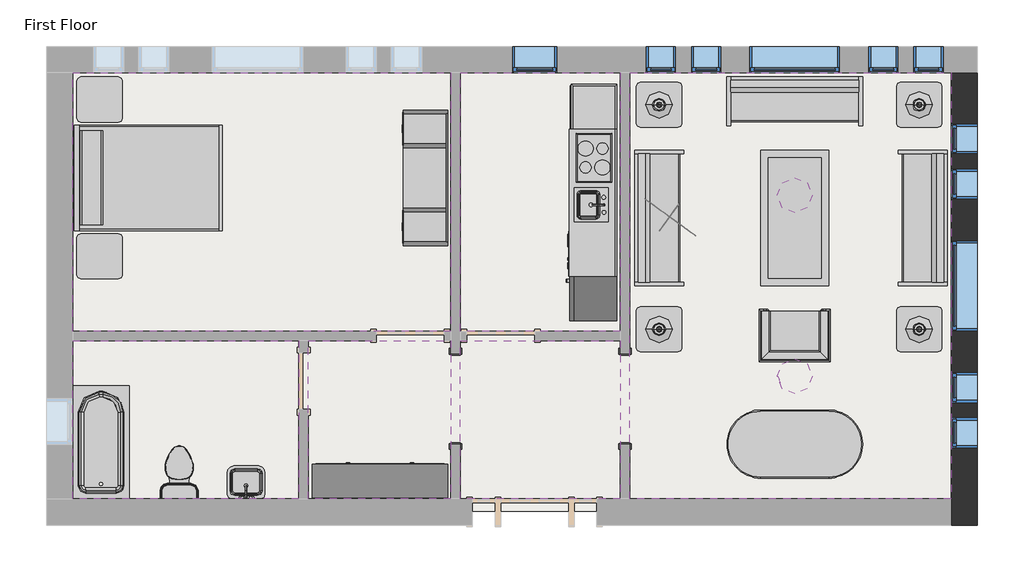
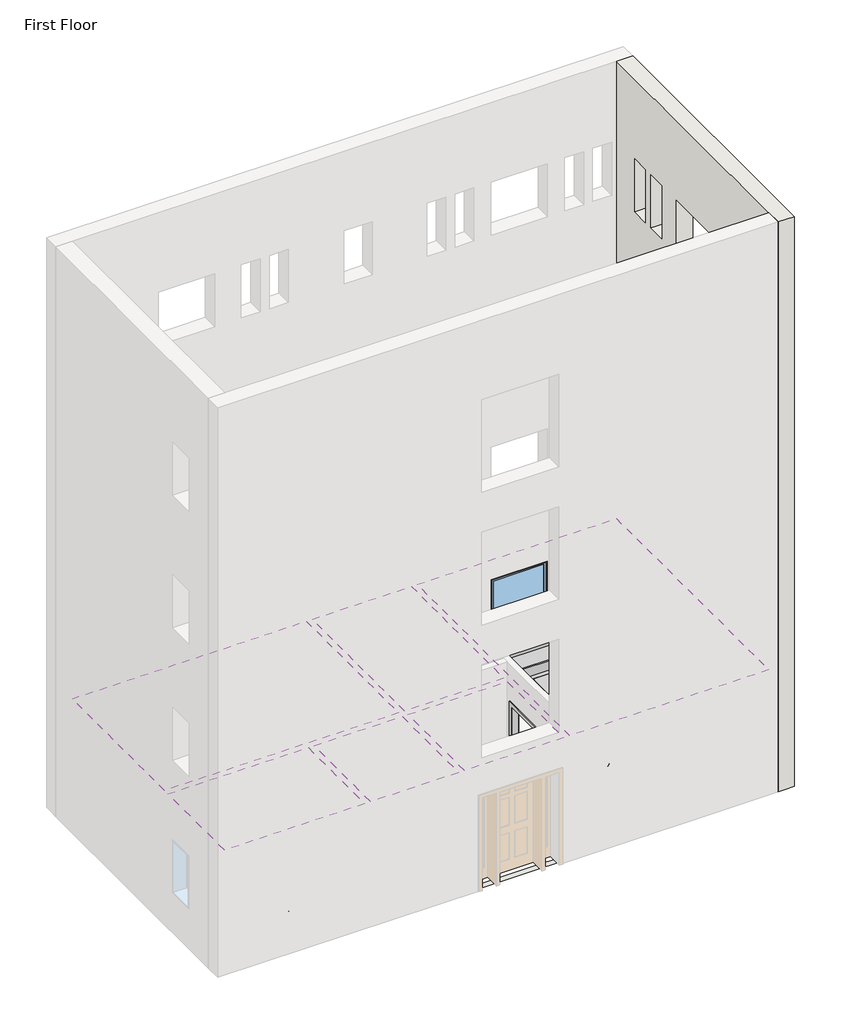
# One storey, part 2 of 2: 15 furniture elements, 11 windows, 6 coverings, 6 light fixtures, 4 proxies, 3 flow terminals, 1 slab, 1 wall.
"""IFC4 building model written with IfcOpenShell, lengths in millimetres."""

from ifc_helpers import new_model, si_unit, frame, origin, place, context, project, spatial, polyline, outline, extrude, faceted_brep, transform, mapped, element, save
from components import proxy_64a468c4, proxy_f44482cc, rpc_female_69e001fa, flow_terminal_0aeb31e3, toilet_domestic_3d_toilet_domestic_3d_f7549cf7, toilet_domestic_3d_toilet_domestic_3d_183bbd19, tub_rectangular_3d_tub_rectangular_3d_5e45a89b, furniture_096e7f55, chair_corbu_chair_corbu_2764bdef, furniture_7c473f12, furniture_ddc78764, furniture_4ef38d96, furniture_cd93a443, furniture_2c34a4f9, furniture_3a588284, furniture_1befe2a2, pendant_light_disk_100w_120v_c68bffb6, table_lamp_standard_60w_120v_6e8cd8b1, window_da97879f, window_d61ef850, window_60baf983, window_6eb97611

model = new_model("IFC4")

# Units and contexts
model_context = context("Model", 3, world=origin())
ifc_project = project(units=[si_unit("LENGTHUNIT", "METRE", prefix="MILLI")], contexts=[model_context])

# Site, building, storey
site = spatial("IfcSite", under=ifc_project)
building = spatial("IfcBuilding", under=site)
storey = spatial("IfcBuildingStorey", under=building, Name="First Floor", Elevation=0.0)

# Proxies
placement = place(None, origin())
proxy_shape = proxy_64a468c4(model_context)
element("IfcBuildingElementProxy", 1, Name="Kitchenette - Medium : 8'6\"", ObjectType="Kitchenette - Medium : 8'6\"", at=placement, inside=storey, context=model_context, shape_type="MappedRepresentation", body=[
    mapped(proxy_shape, transform((-3887.7589563, 8837.7956433, 0.0), x_axis=(0.0, -1.0, 0.0), y_axis=(1.0, 0.0, 0.0), z_axis=(0.0, 0.0, 1.0))),
])
proxy_2_shape = proxy_f44482cc(model_context)
element("IfcBuildingElementProxy", 2, Name="Opening-Cased : 48\" x 84\"", ObjectType="Opening-Cased : 48\" x 84\"", at=placement, inside=storey, context=model_context, shape_type="MappedRepresentation", body=[
    mapped(proxy_2_shape, transform((-3773.4589563, 5882.4203434, 0.0), x_axis=(0.0, 1.0, 0.0), y_axis=(-1.0, 0.0, 0.0), z_axis=(0.0, 0.0, 1.0))),
])
element("IfcBuildingElementProxy", 3, Name="Opening-Cased : 48\" x 84\"", ObjectType="Opening-Cased : 48\" x 84\"", at=placement, inside=storey, context=model_context, shape_type="MappedRepresentation", body=[
    mapped(proxy_2_shape, transform((-6059.4589563, 5866.04303, 0.0), x_axis=(0.0, -1.0, 0.0), y_axis=(1.0, 0.0, 0.0), z_axis=(0.0, 0.0, 1.0))),
])
rpc_female_shape = rpc_female_69e001fa(model_context)
element("IfcBuildingElementProxy", 4, Name="RPC Female : Cynthia", ObjectType="RPC Female : Cynthia", at=placement, inside=storey, context=model_context, shape_type="MappedRepresentation", body=[
    mapped(rpc_female_shape, transform((-3048.0, 8229.6, 0.0), x_axis=(0.5877852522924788, 0.8090169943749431, 0.0), y_axis=(-0.8090169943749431, 0.5877852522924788, 0.0), z_axis=(0.0, 0.0, 1.0))),
])

# Coverings
element("IfcCovering", 5, ObjectType="GWB on Mtl. Stud", at=placement, inside=storey, context=model_context, shape_type="SweptSolid", body=[
    extrude(outline(polyline([(-11217.2464563, 10270.0191867), (-6122.9589563, 10270.0191867), (-6122.9589563, 6787.0441867), (-11217.2464563, 6787.0441867), (-11217.2464563, 10270.0191867)])), frame((0.0, 0.0, 2590.8), z_axis=(0.0, 0.0, 1.0), x_axis=(1.0, 0.0, 0.0)), (0.0, 0.0, 1.0), 107.95),
])
element("IfcCovering", 6, ObjectType="GWB on Mtl. Stud", at=placement, inside=storey, context=model_context, shape_type="SweptSolid", body=[
    extrude(outline(polyline([(-5995.9589563, 6787.0441867), (-5995.9589563, 10270.0191867), (-3836.9589563, 10270.0191867), (-3836.9589563, 6787.0441867), (-5995.9589563, 6787.0441867)])), frame((0.0, 0.0, 2590.8), z_axis=(0.0, 0.0, 1.0), x_axis=(1.0, 0.0, 0.0)), (0.0, 0.0, 1.0), 107.95),
])
element("IfcCovering", 7, ObjectType="GWB on Mtl. Stud", at=placement, inside=storey, context=model_context, shape_type="SweptSolid", body=[
    extrude(outline(polyline([(-3709.9589563, 4526.4441867), (-3709.9589563, 10270.0191867), (622.3285437, 10270.0191867), (622.3285437, 4526.4441867), (-3709.9589563, 4526.4441867)])), frame((0.0, 0.0, 2590.8), z_axis=(0.0, 0.0, 1.0), x_axis=(1.0, 0.0, 0.0)), (0.0, 0.0, 1.0), 107.95),
])
element("IfcCovering", 8, ObjectType="GWB on Mtl. Stud", at=placement, inside=storey, context=model_context, shape_type="SweptSolid", body=[
    extrude(outline(polyline([(-3836.9589563, 4526.4441867), (-5995.9589563, 4526.4441867), (-5995.9589563, 6660.0441867), (-3836.9589563, 6660.0441867), (-3836.9589563, 4526.4441867)])), frame((0.0, 0.0, 2590.8), z_axis=(0.0, 0.0, 1.0), x_axis=(1.0, 0.0, 0.0)), (0.0, 0.0, 1.0), 107.95),
])
element("IfcCovering", 9, ObjectType="GWB on Mtl. Stud", at=placement, inside=storey, context=model_context, shape_type="SweptSolid", body=[
    extrude(outline(polyline([(-6122.9589563, 4526.4441867), (-8042.2464563, 4526.4441867), (-8042.2464563, 6660.0441867), (-6122.9589563, 6660.0441867), (-6122.9589563, 4526.4441867)])), frame((0.0, 0.0, 2590.8), z_axis=(0.0, 0.0, 1.0), x_axis=(1.0, 0.0, 0.0)), (0.0, 0.0, 1.0), 107.95),
])
element("IfcCovering", 10, ObjectType="GWB on Mtl. Stud", at=placement, inside=storey, context=model_context, shape_type="SweptSolid", body=[
    extrude(outline(polyline([(-8169.2464563, 6660.0441867), (-8169.2464563, 4526.4441867), (-11217.2464563, 4526.4441867), (-11217.2464563, 6660.0441867), (-8169.2464563, 6660.0441867)])), frame((0.0, 0.0, 2590.8), z_axis=(0.0, 0.0, 1.0), x_axis=(1.0, 0.0, 0.0)), (0.0, 0.0, 1.0), 107.95),
])

# Flow terminals
flow_terminal_shape = flow_terminal_0aeb31e3(model_context)
element("IfcFlowTerminal", 11, ObjectType="Sink Vanity-Square : 24\" x 19\"", at=placement, inside=storey, context=model_context, shape_type="MappedRepresentation", body=[
    mapped(flow_terminal_shape, transform((-8864.7572157, 4706.5895878, 0.0), x_axis=(-1.0, 0.0, 0.0), y_axis=(0.0, -1.0, 0.0), z_axis=(0.0, 0.0, 1.0))),
])
toilet_domestic_3d_toilet_domestic_3d_shape = toilet_domestic_3d_toilet_domestic_3d_f7549cf7(model_context)
toilet_domestic_3d_toilet_domestic_3d_2_shape = toilet_domestic_3d_toilet_domestic_3d_183bbd19(model_context)
element("IfcFlowTerminal", 12, ObjectType="Toilet-Domestic-3D : Toilet-Domestic-3D", at=placement, inside=storey, context=model_context, shape_type="MappedRepresentation", body=[
    mapped(toilet_domestic_3d_toilet_domestic_3d_shape, transform((-9782.1466587, 4940.866411, 0.0), x_axis=(-1.0000000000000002, 0.0, 0.0), y_axis=(0.0, -1.0000000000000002, 0.0), z_axis=(0.0, 0.0, 1.0))),
    mapped(toilet_domestic_3d_toilet_domestic_3d_2_shape, transform((-9782.1466587, 4940.866411, 0.0), x_axis=(-1.0000000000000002, 0.0, 0.0), y_axis=(0.0, -1.0000000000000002, 0.0), z_axis=(0.0, 0.0, 1.0))),
])
tub_rectangular_3d_tub_rectangular_3d_shape = tub_rectangular_3d_tub_rectangular_3d_5e45a89b(model_context)
element("IfcFlowTerminal", 13, ObjectType="Tub-Rectangular-3D : Tub-Rectangular-3D", at=placement, inside=storey, context=model_context, shape_type="MappedRepresentation", body=[
    mapped(tub_rectangular_3d_tub_rectangular_3d_shape, transform((-11393.4589563, 5637.0471554, 0.0), x_axis=(0.0, 1.0, 0.0), y_axis=(-1.0, 0.0, 0.0), z_axis=(0.0, 0.0, 1.0))),
])

# Furniture
furniture_shape = furniture_096e7f55(model_context)
element("IfcFurniture", 14, ObjectType="Bed-Shaker : Double 56\" x 78\"", at=placement, inside=storey, context=model_context, shape_type="MappedRepresentation", body=[
    mapped(furniture_shape, transform((-11183.1982802, 8871.8755561, 0.0), x_axis=(0.0, 1.0, 0.0), y_axis=(-1.0, 0.0, 0.0), z_axis=(0.0, 0.0, 1.0))),
])
chair_corbu_chair_corbu_shape = chair_corbu_chair_corbu_2764bdef(model_context)
element("IfcFurniture", 15, ObjectType="Chair-Corbu : Chair-Corbu", at=placement, inside=storey, context=model_context, shape_type="MappedRepresentation", body=[
    mapped(chair_corbu_chair_corbu_shape, transform((-914.0851858, 7193.4962359, 0.0), x_axis=(-1.0, 0.0, 0.0), y_axis=(0.0, -1.0, 0.0), z_axis=(0.0, 0.0, 1.0))),
])
furniture_2_shape = furniture_7c473f12(model_context)
element("IfcFurniture", 16, ObjectType="Dresser : 72\" x 60\" x 18\"", at=placement, inside=storey, context=model_context, shape_type="MappedRepresentation", body=[
    mapped(furniture_2_shape, transform((-7344.6522161, 4404.5812326, 0.0), x_axis=(-1.0, 0.0, 0.0), y_axis=(0.0, -1.0, 0.0), z_axis=(0.0, 0.0, 1.0))),
])
furniture_3_shape = furniture_ddc78764(model_context)
element("IfcFurniture", 17, ObjectType="Entertainment Center : 72\" x 72\" x 24\"", at=placement, inside=storey, context=model_context, shape_type="MappedRepresentation", body=[
    mapped(furniture_3_shape, transform((-6059.4589563, 8852.8255561, 0.0), x_axis=(0.0, -1.0, 0.0), y_axis=(1.0, 0.0, 0.0), z_axis=(0.0, 0.0, 1.0))),
])
furniture_4_shape = furniture_4ef38d96(model_context)
element("IfcFurniture", 18, ObjectType="Sofa : 72\"", at=placement, inside=storey, context=model_context, shape_type="MappedRepresentation", body=[
    mapped(furniture_4_shape, transform((-1557.8294481, 9741.2775883, 0.0), x_axis=(1.0, 0.0, 0.0), y_axis=(0.0, 1.0, 0.0), z_axis=(0.0, 0.0, 1.0))),
])
element("IfcFurniture", 19, ObjectType="Sofa : 72\"", at=placement, inside=storey, context=model_context, shape_type="MappedRepresentation", body=[
    mapped(furniture_4_shape, transform((93.5869453, 8383.0021785, 0.0), x_axis=(0.0, -1.0, 0.0), y_axis=(1.0, 0.0, 0.0), z_axis=(0.0, 0.0, 1.0))),
])
element("IfcFurniture", 20, ObjectType="Sofa : 72\"", at=placement, inside=storey, context=model_context, shape_type="MappedRepresentation", body=[
    mapped(furniture_4_shape, transform((-3170.104858, 8242.2611949, 0.0), x_axis=(0.0, 1.0, 0.0), y_axis=(-1.0, 0.0, 0.0), z_axis=(0.0, 0.0, 1.0))),
])
furniture_5_shape = furniture_cd93a443(model_context)
element("IfcFurniture", 21, ObjectType="Table-Coffee : 36\" x 72\" x 18\"", at=placement, inside=storey, context=model_context, shape_type="MappedRepresentation", body=[
    mapped(furniture_5_shape, transform((-1582.6700341, 8330.8974534, 0.0), x_axis=(0.0, -1.0, 0.0), y_axis=(1.0, 0.0, 0.0), z_axis=(0.0, 0.0, 1.0))),
])
furniture_6_shape = furniture_2c34a4f9(model_context)
element("IfcFurniture", 22, ObjectType="Table-Dining Oval : 36\" x 72\"", at=placement, inside=storey, context=model_context, shape_type="MappedRepresentation", body=[
    mapped(furniture_6_shape, transform((-1085.6392842, 5622.7300473, 0.0), x_axis=(1.0, 0.0, 0.0), y_axis=(0.0, 1.0, 0.0), z_axis=(0.0, 0.0, 1.0))),
])
furniture_7_shape = furniture_3a588284(model_context)
element("IfcFurniture", 23, ObjectType="Table-End : 24\" x 24\"", at=placement, inside=storey, context=model_context, shape_type="MappedRepresentation", body=[
    mapped(furniture_7_shape, transform((-119.5925866, 9684.2316867, 0.0), x_axis=(1.0, 0.0, 0.0), y_axis=(0.0, 1.0, 0.0), z_axis=(0.0, 0.0, 1.0))),
])
element("IfcFurniture", 24, ObjectType="Table-End : 24\" x 24\"", at=placement, inside=storey, context=model_context, shape_type="MappedRepresentation", body=[
    mapped(furniture_7_shape, transform((-3624.7925866, 9684.2316867, 0.0), x_axis=(1.0, 0.0, 0.0), y_axis=(0.0, 1.0, 0.0), z_axis=(0.0, 0.0, 1.0))),
])
element("IfcFurniture", 25, ObjectType="Table-End : 24\" x 24\"", at=placement, inside=storey, context=model_context, shape_type="MappedRepresentation", body=[
    mapped(furniture_7_shape, transform((-3624.7925866, 6660.0441867, 0.0), x_axis=(1.0, 0.0, 0.0), y_axis=(0.0, 1.0, 0.0), z_axis=(0.0, 0.0, 1.0))),
])
element("IfcFurniture", 26, ObjectType="Table-End : 24\" x 24\"", at=placement, inside=storey, context=model_context, shape_type="MappedRepresentation", body=[
    mapped(furniture_7_shape, transform((-119.5925866, 6660.0441867, 0.0), x_axis=(1.0, 0.0, 0.0), y_axis=(0.0, 1.0, 0.0), z_axis=(0.0, 0.0, 1.0))),
])
element("IfcFurniture", 27, ObjectType="Table-End : 24\" x 24\"", at=placement, inside=storey, context=model_context, shape_type="MappedRepresentation", body=[
    mapped(furniture_7_shape, transform((-11164.2346356, 9756.0737357, 0.0), x_axis=(1.0, 0.0, 0.0), y_axis=(0.0, 1.0, 0.0), z_axis=(0.0, 0.0, 1.0))),
])
furniture_8_shape = furniture_1befe2a2(model_context)
element("IfcFurniture", 28, ObjectType="Table-End : 24\" x 24\"", at=placement, inside=storey, context=model_context, shape_type="MappedRepresentation", body=[
    mapped(furniture_8_shape, transform((-11164.2346356, 7949.5773764, 0.0), x_axis=(1.0, 0.0, 0.0), y_axis=(0.0, 1.0, 0.0), z_axis=(0.0, 0.0, 1.0))),
])

# Light fixtures
pendant_light_disk_100w_120v_shape = pendant_light_disk_100w_120v_c68bffb6(model_context)
element("IfcLightFixture", 29, ObjectType="Pendant Light - Disk : 100W - 120V", at=placement, inside=storey, context=model_context, shape_type="MappedRepresentation", body=[
    mapped(pendant_light_disk_100w_120v_shape, transform((-1487.4589563, 8617.4316867, 152.3999938), x_axis=(1.0, 0.0, 0.0), y_axis=(0.0, 1.0, 0.0), z_axis=(0.0, 0.0, 1.0))),
])
element("IfcLightFixture", 30, ObjectType="Pendant Light - Disk : 100W - 120V", at=placement, inside=storey, context=model_context, shape_type="MappedRepresentation", body=[
    mapped(pendant_light_disk_100w_120v_shape, transform((-1487.4589563, 6179.0316867, 152.3999938), x_axis=(1.0, 0.0, 0.0), y_axis=(0.0, 1.0, 0.0), z_axis=(0.0, 0.0, 1.0))),
])
table_lamp_standard_60w_120v_shape = table_lamp_standard_60w_120v_6e8cd8b1(model_context)
element("IfcLightFixture", 31, ObjectType="Table Lamp - Standard : 60W - 120V", at=placement, inside=storey, context=model_context, shape_type="MappedRepresentation", body=[
    mapped(table_lamp_standard_60w_120v_shape, transform((188.9410437, 6812.4441867, 381.0), x_axis=(1.0, 0.0, 0.0), y_axis=(0.0, 1.0, 0.0), z_axis=(0.0, 0.0, 1.0))),
])
element("IfcLightFixture", 32, ObjectType="Table Lamp - Standard : 60W - 120V", at=placement, inside=storey, context=model_context, shape_type="MappedRepresentation", body=[
    mapped(table_lamp_standard_60w_120v_shape, transform((188.9410437, 9836.6316867, 381.0), x_axis=(1.0, 0.0, 0.0), y_axis=(0.0, 1.0, 0.0), z_axis=(0.0, 0.0, 1.0))),
])
element("IfcLightFixture", 33, ObjectType="Table Lamp - Standard : 60W - 120V", at=placement, inside=storey, context=model_context, shape_type="MappedRepresentation", body=[
    mapped(table_lamp_standard_60w_120v_shape, transform((-3316.2589563, 9836.6316867, 381.0), x_axis=(1.0, 0.0, 0.0), y_axis=(0.0, 1.0, 0.0), z_axis=(0.0, 0.0, 1.0))),
])
element("IfcLightFixture", 34, ObjectType="Table Lamp - Standard : 60W - 120V", at=placement, inside=storey, context=model_context, shape_type="MappedRepresentation", body=[
    mapped(table_lamp_standard_60w_120v_shape, transform((-3316.2589563, 6812.4441867, 381.0), x_axis=(1.0, 0.0, 0.0), y_axis=(0.0, 1.0, 0.0), z_axis=(0.0, 0.0, 1.0))),
])

# Slab
element("IfcSlab", 35, ObjectType="LW Concrete on Metal Deck", at=placement, inside=storey, context=model_context, shape_type="SweptSolid", body=[
    extrude(outline(polyline([(787.4285437, 10435.1191867), (787.4285437, 4361.3441867), (-11382.3464563, 4361.3441867), (-11382.3464563, 10435.1191867), (787.4285437, 10435.1191867)])), frame((0.0, 0.0, -104.775), z_axis=(0.0, 0.0, 1.0), x_axis=(1.0, 0.0, 0.0)), (0.0, 0.0, 1.0), 104.775),
])

# Wall
element("IfcWall", 36, ObjectType="Exterior - Brick on Mtl. Stud", at=placement, inside=storey, context=model_context, shape_type="Brep", body=[
    faceted_brep([(622.3285437, 10270.0191867, 13106.4), (622.3285437, 4526.4441867, 13106.4), (622.3285437, 4174.0191867, 13106.4), (974.7535437, 4174.0191867, 13106.4), (974.7535437, 10270.0191867, 13106.4), (622.3285437, 10270.0191867, 0.0), (622.3285437, 4526.4441867, 0.0), (622.3285437, 4361.3441867, 0.0), (622.3285437, 4174.0191867, 0.0), (622.3285437, 5823.4316867, 8229.6), (622.3285437, 5823.4316867, 7010.4), (622.3285437, 6229.8316867, 7010.4), (622.3285437, 6229.8316867, 8229.6), (622.3285437, 5213.8316867, 8229.6), (622.3285437, 5213.8316867, 7010.4), (622.3285437, 5620.2316867, 7010.4), (622.3285437, 5620.2316867, 8229.6), (622.3285437, 8973.0316867, 8229.6), (622.3285437, 8566.6316867, 8229.6), (622.3285437, 8566.6316867, 7010.4), (622.3285437, 8973.0316867, 7010.4), (622.3285437, 9582.6316867, 8229.6), (622.3285437, 9176.2316867, 8229.6), (622.3285437, 9176.2316867, 7010.4), (622.3285437, 9582.6316867, 7010.4), (622.3285437, 8007.8316867, 8229.6), (622.3285437, 6788.6316867, 8229.6), (622.3285437, 6788.6316867, 7010.4), (622.3285437, 8007.8316867, 7010.4), (622.3285437, 5823.4316867, 5181.6), (622.3285437, 5823.4316867, 3962.4), (622.3285437, 6229.8316867, 3962.4), (622.3285437, 6229.8316867, 5181.6), (622.3285437, 5213.8316867, 5181.6), (622.3285437, 5213.8316867, 3962.4), (622.3285437, 5620.2316867, 3962.4), (622.3285437, 5620.2316867, 5181.6), (622.3285437, 8973.0316867, 5181.6), (622.3285437, 8566.6316867, 5181.6), (622.3285437, 8566.6316867, 3962.4), (622.3285437, 8973.0316867, 3962.4), (622.3285437, 9582.6316867, 5181.6), (622.3285437, 9176.2316867, 5181.6), (622.3285437, 9176.2316867, 3962.4), (622.3285437, 9582.6316867, 3962.4), (622.3285437, 8007.8316867, 5181.6), (622.3285437, 6788.6316867, 5181.6), (622.3285437, 6788.6316867, 3962.4), (622.3285437, 8007.8316867, 3962.4), (622.3285437, 5823.4316867, 11277.6), (622.3285437, 5823.4316867, 10058.4), (622.3285437, 6229.8316867, 10058.4), (622.3285437, 6229.8316867, 11277.6), (622.3285437, 5213.8316867, 11277.6), (622.3285437, 5213.8316867, 10058.4), (622.3285437, 5620.2316867, 10058.4), (622.3285437, 5620.2316867, 11277.6), (622.3285437, 8973.0316867, 11277.6), (622.3285437, 8566.6316867, 11277.6), (622.3285437, 8566.6316867, 10058.4), (622.3285437, 8973.0316867, 10058.4), (622.3285437, 9582.6316867, 11277.6), (622.3285437, 9176.2316867, 11277.6), (622.3285437, 9176.2316867, 10058.4), (622.3285437, 9582.6316867, 10058.4), (622.3285437, 8007.8316867, 11277.6), (622.3285437, 6788.6316867, 11277.6), (622.3285437, 6788.6316867, 10058.4), (622.3285437, 8007.8316867, 10058.4), (622.3285437, 5823.4316867, 2133.6), (622.3285437, 5823.4316867, 914.4), (622.3285437, 6229.8316867, 914.4), (622.3285437, 6229.8316867, 2133.6), (622.3285437, 5213.8316867, 2133.6), (622.3285437, 5213.8316867, 914.4), (622.3285437, 5620.2316867, 914.4), (622.3285437, 5620.2316867, 2133.6), (622.3285437, 8973.0316867, 2133.6), (622.3285437, 8566.6316867, 2133.6), (622.3285437, 8566.6316867, 914.4), (622.3285437, 8973.0316867, 914.4), (622.3285437, 9582.6316867, 2133.6), (622.3285437, 9176.2316867, 2133.6), (622.3285437, 9176.2316867, 914.4), (622.3285437, 9582.6316867, 914.4), (622.3285437, 8007.8316867, 2133.6), (622.3285437, 6788.6316867, 2133.6), (622.3285437, 6788.6316867, 914.4), (622.3285437, 8007.8316867, 914.4), (974.7535437, 10270.0191867, 0.0), (974.7535437, 4174.0191867, 0.0), (974.7535437, 4361.3441867, 0.0), (974.7535437, 5823.4316867, 8229.6), (974.7535437, 6229.8316867, 8229.6), (974.7535437, 6229.8316867, 7010.4), (974.7535437, 5823.4316867, 7010.4), (974.7535437, 5213.8316867, 8229.6), (974.7535437, 5620.2316867, 8229.6), (974.7535437, 5620.2316867, 7010.4), (974.7535437, 5213.8316867, 7010.4), (974.7535437, 8973.0316867, 8229.6), (974.7535437, 8973.0316867, 7010.4), (974.7535437, 8566.6316867, 7010.4), (974.7535437, 8566.6316867, 8229.6), (974.7535437, 9582.6316867, 8229.6), (974.7535437, 9582.6316867, 7010.4), (974.7535437, 9176.2316867, 7010.4), (974.7535437, 9176.2316867, 8229.6), (974.7535437, 8007.8316867, 8229.6), (974.7535437, 8007.8316867, 7010.4), (974.7535437, 6788.6316867, 7010.4), (974.7535437, 6788.6316867, 8229.6), (974.7535437, 5823.4316867, 5181.6), (974.7535437, 6229.8316867, 5181.6), (974.7535437, 6229.8316867, 3962.4), (974.7535437, 5823.4316867, 3962.4), (974.7535437, 5213.8316867, 5181.6), (974.7535437, 5620.2316867, 5181.6), (974.7535437, 5620.2316867, 3962.4), (974.7535437, 5213.8316867, 3962.4), (974.7535437, 8973.0316867, 5181.6), (974.7535437, 8973.0316867, 3962.4), (974.7535437, 8566.6316867, 3962.4), (974.7535437, 8566.6316867, 5181.6), (974.7535437, 9582.6316867, 5181.6), (974.7535437, 9582.6316867, 3962.4), (974.7535437, 9176.2316867, 3962.4), (974.7535437, 9176.2316867, 5181.6), (974.7535437, 8007.8316867, 5181.6), (974.7535437, 8007.8316867, 3962.4), (974.7535437, 6788.6316867, 3962.4), (974.7535437, 6788.6316867, 5181.6), (974.7535437, 5823.4316867, 11277.6), (974.7535437, 6229.8316867, 11277.6), (974.7535437, 6229.8316867, 10058.4), (974.7535437, 5823.4316867, 10058.4), (974.7535437, 5213.8316867, 11277.6), (974.7535437, 5620.2316867, 11277.6), (974.7535437, 5620.2316867, 10058.4), (974.7535437, 5213.8316867, 10058.4), (974.7535437, 8973.0316867, 11277.6), (974.7535437, 8973.0316867, 10058.4), (974.7535437, 8566.6316867, 10058.4), (974.7535437, 8566.6316867, 11277.6), (974.7535437, 9582.6316867, 11277.6), (974.7535437, 9582.6316867, 10058.4), (974.7535437, 9176.2316867, 10058.4), (974.7535437, 9176.2316867, 11277.6), (974.7535437, 8007.8316867, 11277.6), (974.7535437, 8007.8316867, 10058.4), (974.7535437, 6788.6316867, 10058.4), (974.7535437, 6788.6316867, 11277.6), (974.7535437, 5823.4316867, 2133.6), (974.7535437, 6229.8316867, 2133.6), (974.7535437, 6229.8316867, 914.4), (974.7535437, 5823.4316867, 914.4), (974.7535437, 5213.8316867, 2133.6), (974.7535437, 5620.2316867, 2133.6), (974.7535437, 5620.2316867, 914.4), (974.7535437, 5213.8316867, 914.4), (974.7535437, 8973.0316867, 2133.6), (974.7535437, 8973.0316867, 914.4), (974.7535437, 8566.6316867, 914.4), (974.7535437, 8566.6316867, 2133.6), (974.7535437, 9582.6316867, 2133.6), (974.7535437, 9582.6316867, 914.4), (974.7535437, 9176.2316867, 914.4), (974.7535437, 9176.2316867, 2133.6), (974.7535437, 8007.8316867, 2133.6), (974.7535437, 8007.8316867, 914.4), (974.7535437, 6788.6316867, 914.4), (974.7535437, 6788.6316867, 2133.6), (787.4285437, 10270.0191867, 0.0), (787.4285437, 4174.0191867, 0.0), (787.4285437, 4361.3441867, 0.0)], [[[0, 1, 2, 3, 4]], [[5, 6, 7, 8, 2, 1, 0], [9, 10, 11, 12], [13, 14, 15, 16], [17, 18, 19, 20], [21, 22, 23, 24], [25, 26, 27, 28], [29, 30, 31, 32], [33, 34, 35, 36], [37, 38, 39, 40], [41, 42, 43, 44], [45, 46, 47, 48], [49, 50, 51, 52], [53, 54, 55, 56], [57, 58, 59, 60], [61, 62, 63, 64], [65, 66, 67, 68], [69, 70, 71, 72], [73, 74, 75, 76], [77, 78, 79, 80], [81, 82, 83, 84], [85, 86, 87, 88]], [[89, 4, 3, 90, 91], [92, 93, 94, 95], [96, 97, 98, 99], [100, 101, 102, 103], [104, 105, 106, 107], [108, 109, 110, 111], [112, 113, 114, 115], [116, 117, 118, 119], [120, 121, 122, 123], [124, 125, 126, 127], [128, 129, 130, 131], [132, 133, 134, 135], [136, 137, 138, 139], [140, 141, 142, 143], [144, 145, 146, 147], [148, 149, 150, 151], [152, 153, 154, 155], [156, 157, 158, 159], [160, 161, 162, 163], [164, 165, 166, 167], [168, 169, 170, 171]], [[5, 0, 4, 89, 172]], [[2, 8, 173, 90, 3]], [[172, 89, 91, 174]], [[8, 7, 174, 173]], [[174, 91, 90, 173]], [[7, 6, 5, 172, 174]], [[10, 9, 92, 95]], [[11, 10, 95, 94]], [[12, 11, 94, 93]], [[9, 12, 93, 92]], [[14, 13, 96, 99]], [[15, 14, 99, 98]], [[16, 15, 98, 97]], [[13, 16, 97, 96]], [[101, 100, 17, 20]], [[102, 101, 20, 19]], [[103, 102, 19, 18]], [[100, 103, 18, 17]], [[105, 104, 21, 24]], [[106, 105, 24, 23]], [[107, 106, 23, 22]], [[104, 107, 22, 21]], [[109, 108, 25, 28]], [[110, 109, 28, 27]], [[111, 110, 27, 26]], [[108, 111, 26, 25]], [[30, 29, 112, 115]], [[31, 30, 115, 114]], [[32, 31, 114, 113]], [[29, 32, 113, 112]], [[34, 33, 116, 119]], [[35, 34, 119, 118]], [[36, 35, 118, 117]], [[33, 36, 117, 116]], [[121, 120, 37, 40]], [[122, 121, 40, 39]], [[123, 122, 39, 38]], [[120, 123, 38, 37]], [[125, 124, 41, 44]], [[126, 125, 44, 43]], [[127, 126, 43, 42]], [[124, 127, 42, 41]], [[129, 128, 45, 48]], [[130, 129, 48, 47]], [[131, 130, 47, 46]], [[128, 131, 46, 45]], [[50, 49, 132, 135]], [[51, 50, 135, 134]], [[52, 51, 134, 133]], [[49, 52, 133, 132]], [[54, 53, 136, 139]], [[55, 54, 139, 138]], [[56, 55, 138, 137]], [[53, 56, 137, 136]], [[141, 140, 57, 60]], [[142, 141, 60, 59]], [[143, 142, 59, 58]], [[140, 143, 58, 57]], [[145, 144, 61, 64]], [[146, 145, 64, 63]], [[147, 146, 63, 62]], [[144, 147, 62, 61]], [[149, 148, 65, 68]], [[150, 149, 68, 67]], [[151, 150, 67, 66]], [[148, 151, 66, 65]], [[70, 69, 152, 155]], [[71, 70, 155, 154]], [[72, 71, 154, 153]], [[69, 72, 153, 152]], [[74, 73, 156, 159]], [[75, 74, 159, 158]], [[76, 75, 158, 157]], [[73, 76, 157, 156]], [[161, 160, 77, 80]], [[162, 161, 80, 79]], [[163, 162, 79, 78]], [[160, 163, 78, 77]], [[165, 164, 81, 84]], [[166, 165, 84, 83]], [[167, 166, 83, 82]], [[164, 167, 82, 81]], [[169, 168, 85, 88]], [[170, 169, 88, 87]], [[171, 170, 87, 86]], [[168, 171, 86, 85]]]),
])

# Windows
window_shape = window_da97879f(model_context)
element("IfcWindow", 37, ObjectType="Fixed : 16\" x 48\"", at=placement, inside=storey, context=model_context, shape_type="MappedRepresentation", body=[
    mapped(window_shape, transform((-3328.9589563, 10446.2316867, 0.0), x_axis=(-1.0, 0.0, 0.0), y_axis=(0.0, -1.0, 0.0), z_axis=(0.0, 0.0, 1.0))),
])
element("IfcWindow", 38, ObjectType="Fixed : 16\" x 48\"", at=placement, inside=storey, context=model_context, shape_type="MappedRepresentation", body=[
    mapped(window_shape, transform((-2719.3589563, 10446.2316867, 0.0), x_axis=(-1.0, 0.0, 0.0), y_axis=(0.0, -1.0, 0.0), z_axis=(0.0, 0.0, 1.0))),
])
element("IfcWindow", 39, ObjectType="Fixed : 16\" x 48\"", at=placement, inside=storey, context=model_context, shape_type="MappedRepresentation", body=[
    mapped(window_shape, transform((798.5410437, 9417.5316867, 0.0), x_axis=(0.0, 1.0, 0.0), y_axis=(-1.0, 0.0, 0.0), z_axis=(0.0, 0.0, 1.0))),
])
element("IfcWindow", 40, ObjectType="Fixed : 16\" x 48\"", at=placement, inside=storey, context=model_context, shape_type="MappedRepresentation", body=[
    mapped(window_shape, transform((798.5410437, 8807.9316867, 0.0), x_axis=(0.0, 1.0, 0.0), y_axis=(-1.0, 0.0, 0.0), z_axis=(0.0, 0.0, 1.0))),
])
window_2_shape = window_d61ef850(model_context)
element("IfcWindow", 41, ObjectType="Fixed : 16\" x 48\"", at=placement, inside=storey, context=model_context, shape_type="MappedRepresentation", body=[
    mapped(window_2_shape, transform((354.0410437, 10446.2316867, 0.0), x_axis=(1.0, 0.0, 0.0), y_axis=(0.0, 1.0, 0.0), z_axis=(0.0, 0.0, 1.0))),
])
element("IfcWindow", 42, ObjectType="Fixed : 16\" x 48\"", at=placement, inside=storey, context=model_context, shape_type="MappedRepresentation", body=[
    mapped(window_2_shape, transform((-255.5589563, 10446.2316867, 0.0), x_axis=(1.0, 0.0, 0.0), y_axis=(0.0, 1.0, 0.0), z_axis=(0.0, 0.0, 1.0))),
])
element("IfcWindow", 43, ObjectType="Fixed : 16\" x 48\"", at=placement, inside=storey, context=model_context, shape_type="MappedRepresentation", body=[
    mapped(window_2_shape, transform((798.5410437, 5378.9316867, 0.0), x_axis=(0.0, -1.0, 0.0), y_axis=(1.0, 0.0, 0.0), z_axis=(0.0, 0.0, 1.0))),
])
element("IfcWindow", 44, ObjectType="Fixed : 16\" x 48\"", at=placement, inside=storey, context=model_context, shape_type="MappedRepresentation", body=[
    mapped(window_2_shape, transform((798.5410437, 5988.5316867, 0.0), x_axis=(0.0, -1.0, 0.0), y_axis=(1.0, 0.0, 0.0), z_axis=(0.0, 0.0, 1.0))),
])
window_3_shape = window_60baf983(model_context)
element("IfcWindow", 45, ObjectType="Fixed : 24\" x 48\"", at=placement, inside=storey, context=model_context, shape_type="MappedRepresentation", body=[
    mapped(window_3_shape, transform((-5030.7589563, 10446.2316867, 0.0), x_axis=(-1.0, 0.0, 0.0), y_axis=(0.0, -1.0, 0.0), z_axis=(0.0, 0.0, 1.0))),
])
window_4_shape = window_6eb97611(model_context)
element("IfcWindow", 46, ObjectType="Fixed : 48\" x 48\"", at=placement, inside=storey, context=model_context, shape_type="MappedRepresentation", body=[
    mapped(window_4_shape, transform((-1525.5589563, 10446.2316867, 0.0), x_axis=(-1.0, 0.0, 0.0), y_axis=(0.0, -1.0, 0.0), z_axis=(0.0, 0.0, 1.0))),
])
element("IfcWindow", 47, ObjectType="Fixed : 48\" x 48\"", at=placement, inside=storey, context=model_context, shape_type="MappedRepresentation", body=[
    mapped(window_4_shape, transform((798.5410437, 7436.3316867, 0.0), x_axis=(0.0, 1.0, 0.0), y_axis=(-1.0, 0.0, 0.0), z_axis=(0.0, 0.0, 1.0))),
])

save(model, "model.ifc")
